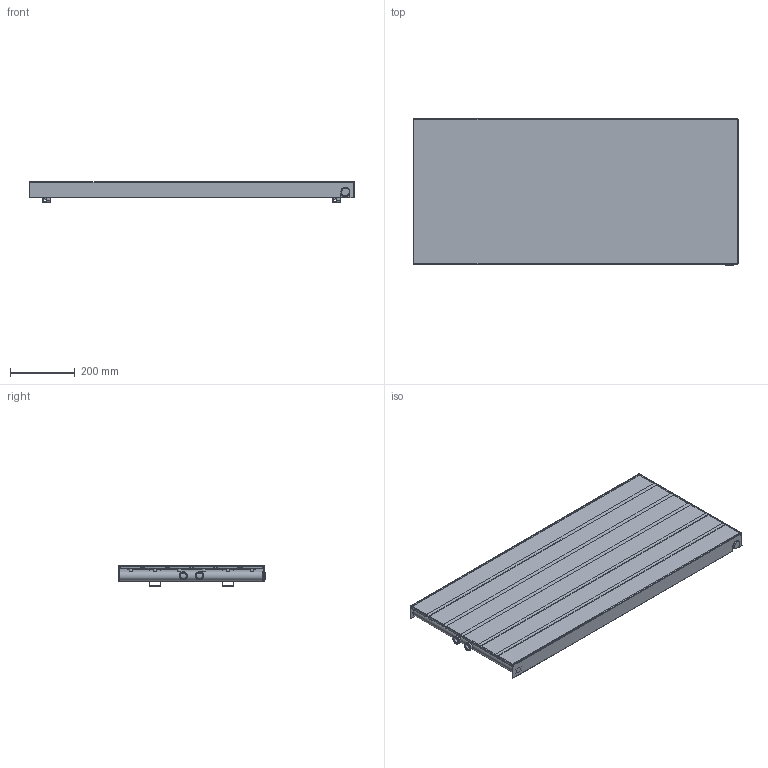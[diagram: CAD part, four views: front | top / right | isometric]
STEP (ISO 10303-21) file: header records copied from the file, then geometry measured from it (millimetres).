
FILE_DESCRIPTION(/* description */ (''),/* implementation_level */ '2;1');
FILE_NAME(/* name */ 'C:\Grzejniki\13DLUXRAD\pokojowe\NIAGARA\to\NIAGARA z osłoną w kolorze standardowym 1000x450.iam.stp',/* time_stamp */ '2016-06-28T17:34:05+02:00',/* author */ ('m.szydziak'),/* organization */ (''),/* preprocessor_version */ 'ST-DEVELOPER v16.5',/* originating_system */ 'Autodesk Inventor 2017',/* authorisation */ '');
FILE_SCHEMA (('AUTOMOTIVE_DESIGN { 1 0 10303 214 3 1 1 }'));
Length unit declared in the file: millimetre
Products named in the file (12): NIAGARA z osłoną w kolorze standa
rdowym 1000x450; NIAGARA 1000x450 osłona; NIAGARA 1000x445 ZDC; fi30x1,5x445; 70x8x1,2x1004; michałek; ucho duze; ucho duze 2; poprzeczka 395; ZDC dzwonki; dzwonek G0,5inch; korek
Assembly tree (33 placements, depth 4):
  NIAGARA z osłoną w kolorze standa
rdowym 1000x450
    NIAGARA 1000x450 osłona
    NIAGARA 1000x445 ZDC
      fi30x1,5x445  x2
      70x8x1,2x1004  x6
      michałek  x12
      ucho duze  x2
      ucho duze 2  x2
      poprzeczka 395  x3
      ZDC dzwonki
        dzwonek G0,5inch  x2
      korek
Bounding box: 1002 x 453.5 x 63.3 mm (x, y, z)
Volume: 1719657.3 mm3; surface area: 3142509.6 mm2
Topology: 31 solids, 31 shells, 453 faces, 1023 edges, 632 vertices
Faces by surface type: plane 227, cylinder 174, sphere 48, cone 2, bspline 2
Full cylindrical faces by diameter (mm): 8 x12, 9 x12, 10 x24, 11.5 x12, 16 x2, 18.5 x2, 18.631 x6, 22.9 x2, 24 x1, 25.3 x2, 27 x2, 30 x2
Entity records: 5742 total; most frequent: CARTESIAN_POINT 1346, DIRECTION 902, ORIENTED_EDGE 758, EDGE_CURVE 379, AXIS2_PLACEMENT_3D 330, VERTEX_POINT 246, LINE 242, VECTOR 242
